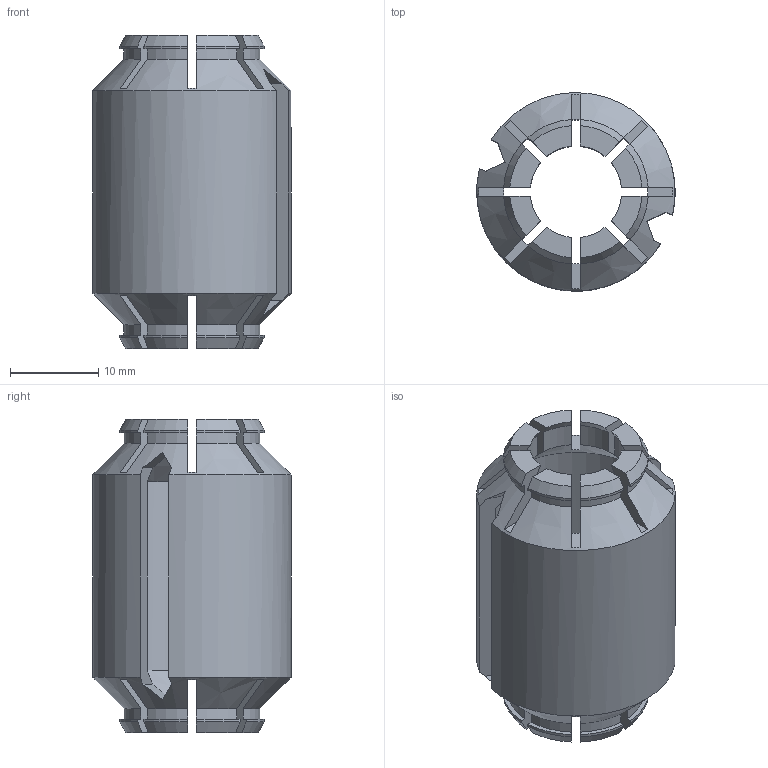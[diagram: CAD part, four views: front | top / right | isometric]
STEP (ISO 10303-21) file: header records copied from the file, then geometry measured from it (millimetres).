
FILE_DESCRIPTION(/* description */ (''),/* implementation_level */ '2;1');
FILE_NAME(/* name */ 'C:/Users/Rocket/Pictures/Cargo spool/Spulenkörper v2.step',/* time_stamp */ '2019-04-03T23:27:01+02:00',/* author */ ('fabian.heinemannJ972B'),/* organization */ (''),/* preprocessor_version */ 'ST-DEVELOPER v17.2',/* originating_system */ 'Autodesk Translation Framework v7.6.0.251',/* authorisation */ '');
FILE_SCHEMA (('AUTOMOTIVE_DESIGN { 1 0 10303 214 3 1 1 }'));
Length unit declared in the file: millimetre
Products named in the file (1): Spulenkörper
Bounding box: 22.45 x 22.47 x 35.42 mm (x, y, z)
Volume: 3849.2 mm3; surface area: 4810.4 mm2
Topology: 1 solids, 1 shells, 180 faces, 552 edges, 368 vertices
Faces by surface type: plane 92, cylinder 52, cone 36
Entity records: 6097 total; most frequent: CARTESIAN_POINT 1421, ORIENTED_EDGE 1104, DIRECTION 930, EDGE_CURVE 552, VERTEX_POINT 368, AXIS2_PLACEMENT_3D 357, LINE 216, VECTOR 216
